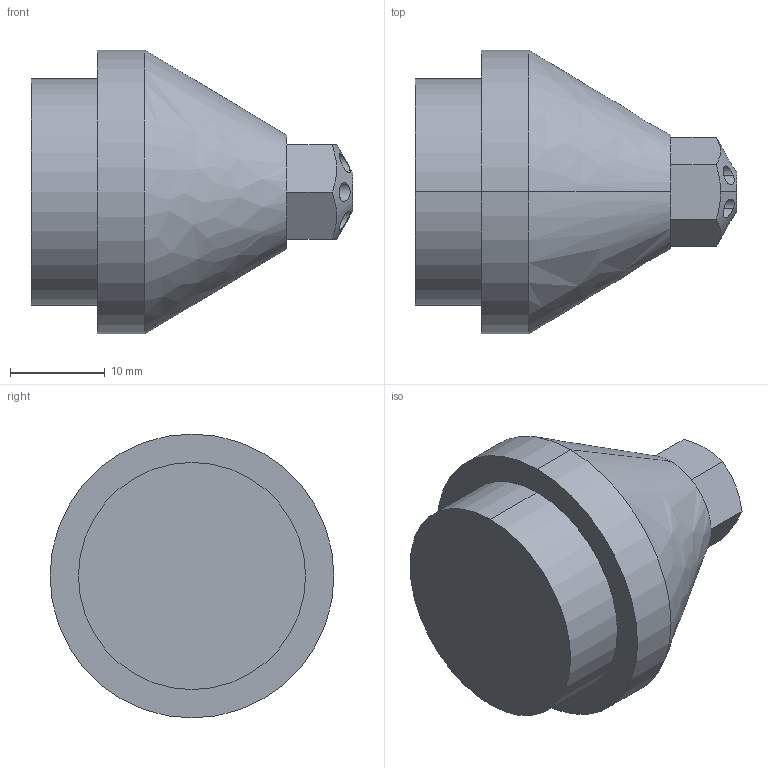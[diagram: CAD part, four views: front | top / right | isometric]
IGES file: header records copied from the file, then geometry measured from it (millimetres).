
Start section: SolidWorks IGES FILE using analytic representation for surfaces
Global section: file name: \\intra-srv04\開発データ\CAD_Data\CAD委員会\3D電子ｶﾀﾛｸﾞ\製品カタログ（新）\0_IGES\ER-ASW30.IGS,41HSolidWorks 2004; native system: by SolidWorks Corporation; preprocessor: Version 5.3; author: mf1158; date: 050905.155826; units: millimetre
Bounding box: 34 x 30 x 30 mm (x, y, z)
Volume: 12719.3 mm3; surface area: 3200.9 mm2
Topology: 1 solids, 1 shells, 39 faces, 82 edges, 54 vertices
Faces by surface type: revolution 22, plane 17
